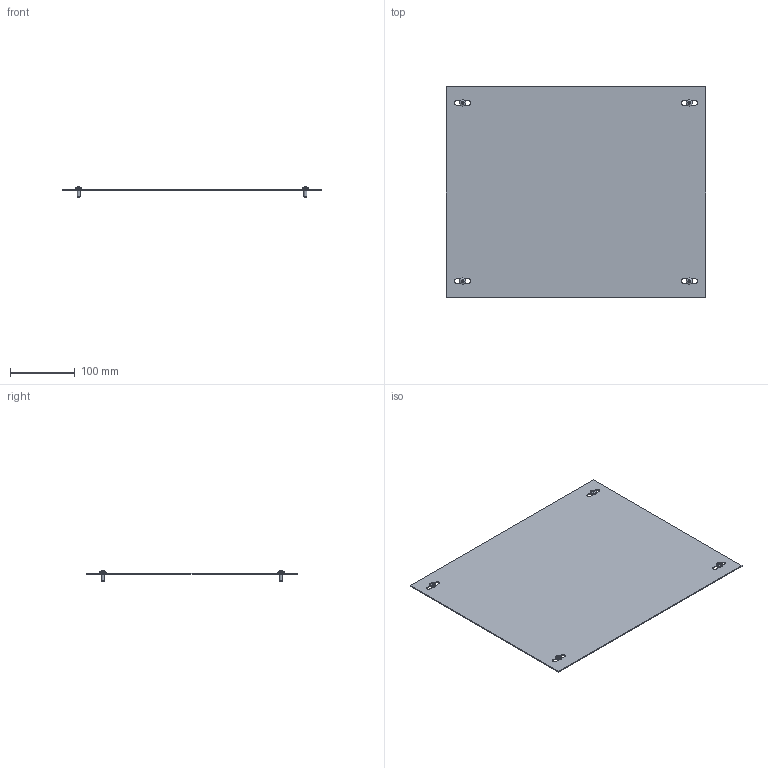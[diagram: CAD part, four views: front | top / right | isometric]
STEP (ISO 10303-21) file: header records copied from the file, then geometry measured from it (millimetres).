
FILE_DESCRIPTION(('Open CASCADE Model'),'2;1');
FILE_NAME('Open CASCADE Shape Model','2025-03-28T17:53:16',('Author'),( 'Open CASCADE'),'Open CASCADE STEP processor 7.8','Open CASCADE 7.8' ,'Unknown');
FILE_SCHEMA(('AUTOMOTIVE_DESIGN { 1 0 10303 214 1 1 1 1 }'));
Length unit declared in the file: millimetre
Products named in the file (3): Compound1; Solid1; Solid2
Assembly tree (5 placements, depth 2):
  Compound1
    Solid1
    Solid2  x4
Bounding box: 400 x 325 x 15.56 mm (x, y, z)
Volume: 195775.7 mm3; surface area: 262992.5 mm2
Topology: 5 solids, 5 shells, 86 faces, 180 edges, 108 vertices
Faces by surface type: plane 46, cylinder 16, torus 8, cone 8, sphere 4, bspline 4
Full cylindrical faces by diameter (mm): 5 x4, 9.5 x4
Entity records: 1508 total; most frequent: CARTESIAN_POINT 562, DIRECTION 190, ORIENTED_EDGE 178, EDGE_CURVE 89, AXIS2_PLACEMENT_3D 73, VERTEX_POINT 57, FACE_BOUND 48, EDGE_LOOP 48
